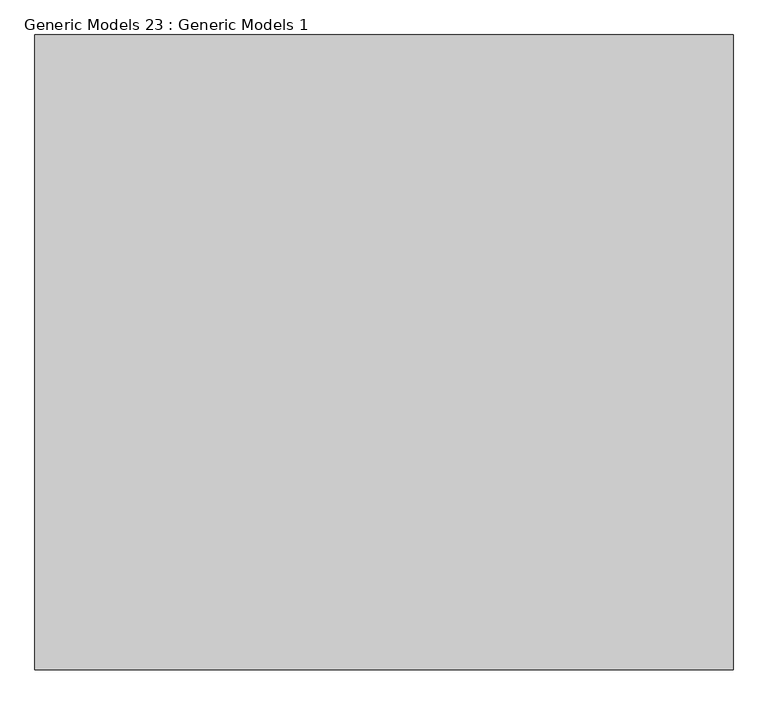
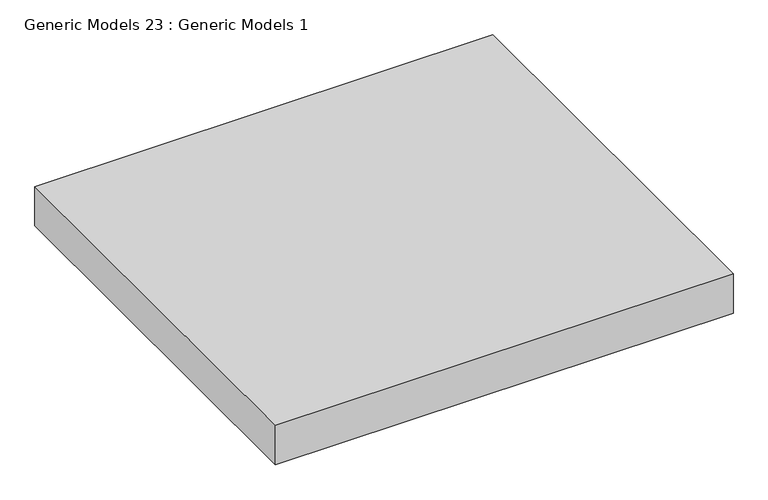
"""IFC4 building model written with IfcOpenShell, lengths in millimetres: proxy geometry, Generic Models 23 : Generic Models 1."""

from ifc_helpers import new_model, si_unit, origin, origin_with_axes, place, context, project, spatial, polyline, outline, extrude, source, transform, mapped, element, save


def generic_models_23_generic_models_1_20b69050(model_context):
    return source(origin(), model_context, "Body", "SweptSolid", [
        extrude(outline(polyline([(9741.0810265, -7486.5772826), (9741.0810265, -6486.5772826), (10841.0810265, -6486.5772826), (10841.0810265, -7486.5772826), (9741.0810265, -7486.5772826)])), origin_with_axes(), (0.0, 0.0, 1.0), 100.0),
    ])


if __name__ == "__main__":
    model = new_model("IFC4")
    model_context = context("Model", 3, world=origin())
    ifc_project = project(units=[si_unit("LENGTHUNIT", "METRE", prefix="MILLI")], contexts=[model_context])
    site = spatial("IfcSite", under=ifc_project)
    building = spatial("IfcBuilding", under=site)
    placement = place(None, origin())
    generic_models_23_generic_models_1_shape = generic_models_23_generic_models_1_20b69050(model_context)
    element("IfcBuildingElementProxy", 1, Name="Generic Models 23 : Generic Models 1", ObjectType="Generic Models 23 : Generic Models 1", at=placement, inside=building, context=model_context, shape_type="MappedRepresentation", body=[
        mapped(generic_models_23_generic_models_1_shape, transform((0.0, 0.0, 0.0), x_axis=(1.0, 0.0, 0.0), y_axis=(0.0, 1.0, 0.0), z_axis=(0.0, 0.0, 1.0))),
    ])
    save(model, "model.ifc")
